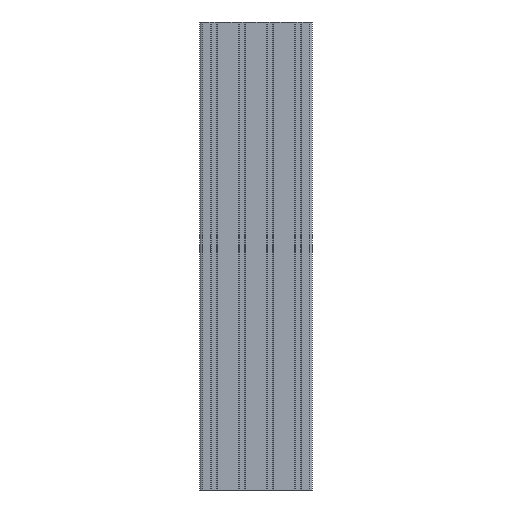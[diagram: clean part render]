
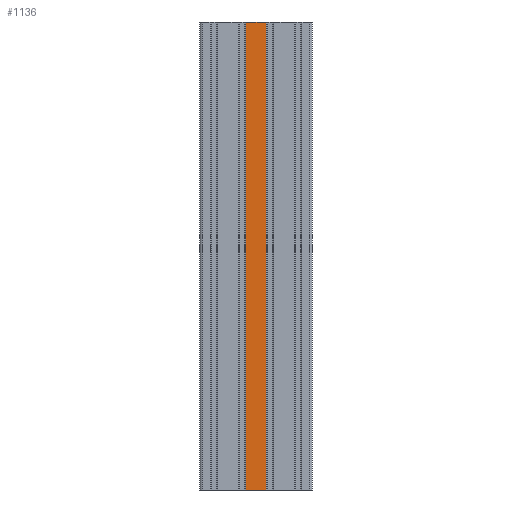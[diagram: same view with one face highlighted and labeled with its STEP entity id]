
A CAD part, front view. The second image highlights one B-rep face of the part: STEP entity #1136.
In plain terms, the highlighted planar face has unit normal (0, -1, 0).
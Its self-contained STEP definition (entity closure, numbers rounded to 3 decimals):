
#922 = VERTEX_POINT ( 'NONE', #1967 ) ;
#1136 = ADVANCED_FACE ( 'NONE', ( #16603 ), #7058, .T. ) ;
#1494 = VECTOR ( 'NONE', #2817, 1000. ) ;
#1584 = CARTESIAN_POINT ( 'NONE',  ( -10.9, -30., -250. ) ) ;
#1967 = CARTESIAN_POINT ( 'NONE',  ( -10.9, -30., 250. ) ) ;
#2353 = EDGE_LOOP ( 'NONE', ( #6982, #13500, #16004, #17264 ) ) ;
#2421 = EDGE_CURVE ( 'NONE', #16553, #10508, #7520, .T. ) ;
#2817 = DIRECTION ( 'NONE',  ( 0., 0., 1. ) ) ;
#3574 = CARTESIAN_POINT ( 'NONE',  ( 10.9, -30., 250. ) ) ;
#3931 = CARTESIAN_POINT ( 'NONE',  ( -10.9, -30., -250. ) ) ;
#4093 = DIRECTION ( 'NONE',  ( 0., -1., 0. ) ) ;
#4395 = CARTESIAN_POINT ( 'NONE',  ( -60., -30., -250. ) ) ;
#5103 = VECTOR ( 'NONE', #8856, 1000. ) ;
#5117 = DIRECTION ( 'NONE',  ( 1., 0., 0. ) ) ;
#6362 = VECTOR ( 'NONE', #5117, 1000. ) ;
#6468 = EDGE_CURVE ( 'NONE', #10508, #922, #11911, .T. ) ;
#6982 = ORIENTED_EDGE ( 'NONE', *, *, #2421, .F. ) ;
#7058 = PLANE ( 'NONE',  #8657 ) ;
#7254 = CARTESIAN_POINT ( 'NONE',  ( -60., -30., -384.164 ) ) ;
#7520 = LINE ( 'NONE', #4395, #9308 ) ;
#7589 = EDGE_CURVE ( 'NONE', #16553, #12319, #14772, .T. ) ;
#8657 = AXIS2_PLACEMENT_3D ( 'NONE', #7254, #4093, #14258 ) ;
#8856 = DIRECTION ( 'NONE',  ( 0., 0., 1. ) ) ;
#9035 = CARTESIAN_POINT ( 'NONE',  ( -60., -30., 250. ) ) ;
#9308 = VECTOR ( 'NONE', #12790, 1000. ) ;
#10508 = VERTEX_POINT ( 'NONE', #3931 ) ;
#11599 = CARTESIAN_POINT ( 'NONE',  ( 10.9, -30., -250. ) ) ;
#11911 = LINE ( 'NONE', #1584, #5103 ) ;
#12319 = VERTEX_POINT ( 'NONE', #3574 ) ;
#12790 = DIRECTION ( 'NONE',  ( -1., 0., 0. ) ) ;
#13500 = ORIENTED_EDGE ( 'NONE', *, *, #7589, .T. ) ;
#14258 = DIRECTION ( 'NONE',  ( 1., 0., 0. ) ) ;
#14772 = LINE ( 'NONE', #11599, #1494 ) ;
#16004 = ORIENTED_EDGE ( 'NONE', *, *, #18041, .F. ) ;
#16553 = VERTEX_POINT ( 'NONE', #17122 ) ;
#16603 = FACE_OUTER_BOUND ( 'NONE', #2353, .T. ) ;
#17122 = CARTESIAN_POINT ( 'NONE',  ( 10.9, -30., -250. ) ) ;
#17258 = LINE ( 'NONE', #9035, #6362 ) ;
#17264 = ORIENTED_EDGE ( 'NONE', *, *, #6468, .F. ) ;
#18041 = EDGE_CURVE ( 'NONE', #922, #12319, #17258, .T. ) ;
